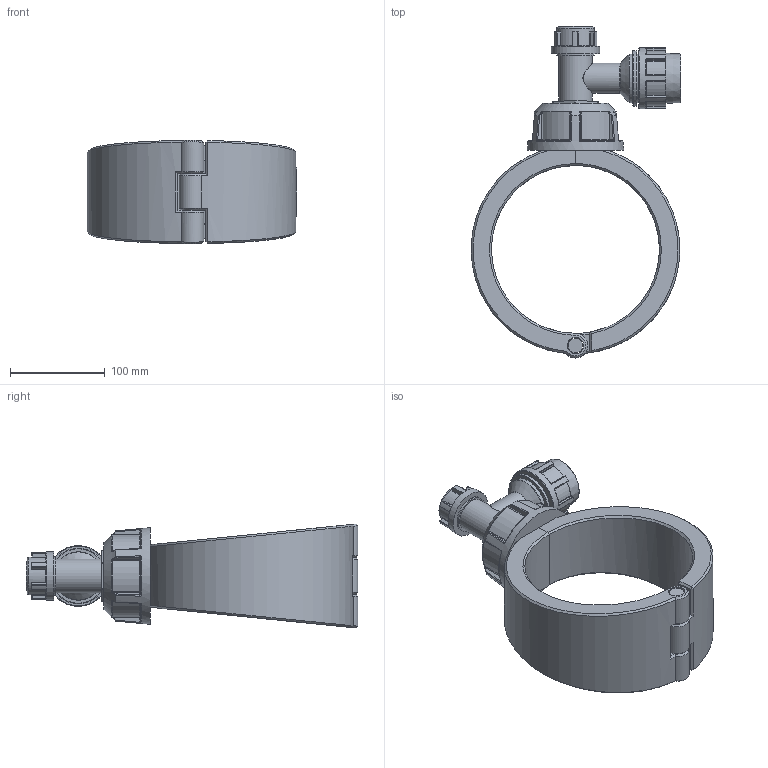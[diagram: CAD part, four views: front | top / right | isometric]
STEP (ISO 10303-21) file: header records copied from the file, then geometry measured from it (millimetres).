
FILE_DESCRIPTION(/* description */ ('Plassadle Tapper 177x32'),/* implementation_level */ '2;1');
FILE_NAME(/* name */ 'C:\Users\comp2\Dropbox\99-16-3568-Processing\Mechanical Fittings\16310\stp\1631061220320A.stp',/* time_stamp */ '2022-02-03T11:59:14+00:00',/* author */ ('comp2'),/* organization */ (''),/* preprocessor_version */ 'ST-DEVELOPER v17.2',/* originating_system */ 'Autodesk Inventor 2019',/* authorisation */ '');
FILE_SCHEMA (('AUTOMOTIVE_DESIGN { 1 0 10303 214 3 1 1 }'));
Length unit declared in the file: millimetre
Products named in the file (1): 1631061220320A
Bounding box: 220.89 x 349.99 x 109.6 mm (x, y, z)
Volume: 1714757.7 mm3; surface area: 213425.1 mm2
Topology: 4 solids, 4 shells, 519 faces, 1253 edges, 754 vertices
Faces by surface type: cylinder 184, plane 109, bspline 87, torus 83, sphere 40, cone 16
Full cylindrical faces by diameter (mm): 15.3 x1, 17.3 x3, 30.6 x1, 32 x2, 35.7 x1, 39.7 x2, 51 x1, 51.2 x2, 58.414 x1, 64 x1
Entity records: 18826 total; most frequent: CARTESIAN_POINT 7073, ORIENTED_EDGE 2508, DIRECTION 2426, EDGE_CURVE 1254, AXIS2_PLACEMENT_3D 1028, VERTEX_POINT 755, CIRCLE 563, EDGE_LOOP 537
